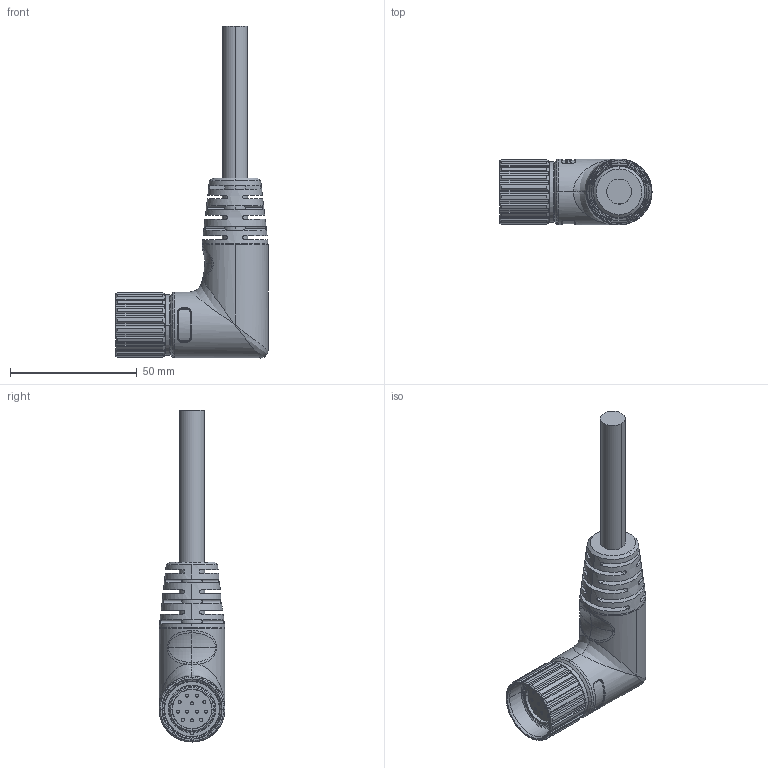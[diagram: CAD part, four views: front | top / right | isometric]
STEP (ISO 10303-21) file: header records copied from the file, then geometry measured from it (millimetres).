
FILE_DESCRIPTION (( 'STEP AP203' ), '1' );
FILE_NAME ('68CB41.STEP', '2024-09-30T07:14:14', ( 'L' ), ( '' ), 'SwSTEP 2.0', 'SolidWorks 2019', '' );
FILE_SCHEMA (( 'CONFIG_CONTROL_DESIGN' ));
Products named in the file (1): 68CB41
Bounding box: 60 x 26 x 131 mm (x, y, z)
Volume: 49444 mm3; surface area: 19566.9 mm2
Topology: 1 solids, 1 shells, 1020 faces, 2779 edges, 1780 vertices
Faces by surface type: cylinder 384, plane 375, cone 143, torus 70, bspline 36, sphere 12
Entity records: 42950 total; most frequent: CARTESIAN_POINT 18982, ORIENTED_EDGE 5546, DIRECTION 4457, EDGE_CURVE 2773, AXIS2_PLACEMENT_3D 1958, VERTEX_POINT 1780, B_SPLINE_CURVE_WITH_KNOTS 1132, EDGE_LOOP 1083
